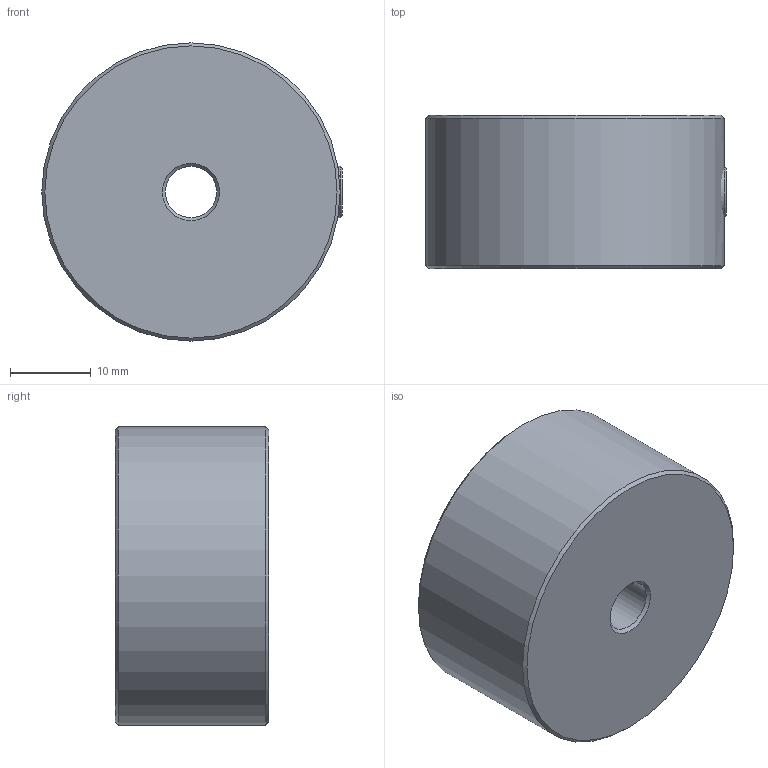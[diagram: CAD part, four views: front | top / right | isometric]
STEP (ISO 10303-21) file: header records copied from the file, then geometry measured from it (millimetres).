
FILE_DESCRIPTION(/* description */ (''),/* implementation_level */ '2;1');
FILE_NAME(/* name */ 'C:/Users/drich/Desktop/D-1250 v1.step',/* time_stamp */ '2020-01-08T19:15:39-06:00',/* author */ (''),/* organization */ (''),/* preprocessor_version */ 'ST-DEVELOPER v18',/* originating_system */ 'Autodesk Translation Framework v8.12.0.6',/* authorisation */ '');
FILE_SCHEMA (('AUTOMOTIVE_DESIGN { 1 0 10303 214 3 1 1 }'));
Length unit declared in the file: inch
Products named in the file (1): D-1250
Bounding box: 37.29 x 19.05 x 37.03 mm (x, y, z)
Volume: 20045.3 mm3; surface area: 4817.7 mm2
Topology: 2 solids, 2 shells, 26 faces, 59 edges, 39 vertices
Faces by surface type: plane 18, cone 5, cylinder 3
Full cylindrical faces by diameter (mm): 6.35 x2, 37.033 x1
Entity records: 779 total; most frequent: DIRECTION 132, CARTESIAN_POINT 125, ORIENTED_EDGE 118, EDGE_CURVE 59, AXIS2_PLACEMENT_3D 46, LINE 40, VECTOR 40, VERTEX_POINT 39
